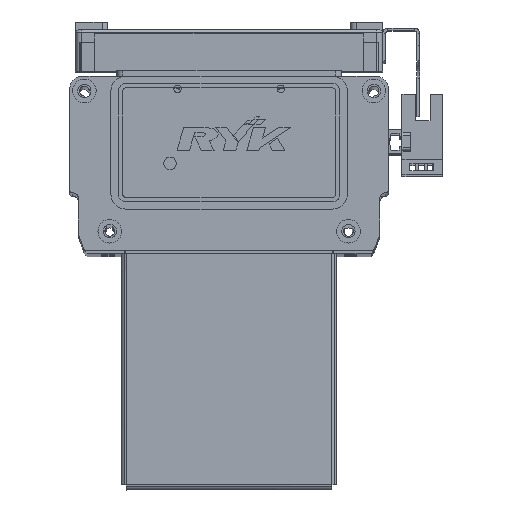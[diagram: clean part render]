
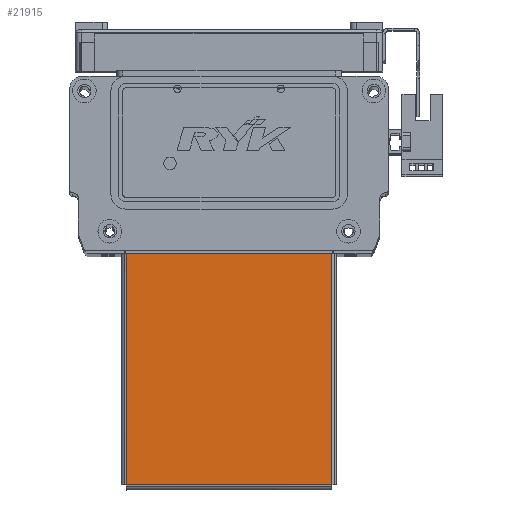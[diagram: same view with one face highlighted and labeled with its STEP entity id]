
A CAD part, top view. The second image highlights one B-rep face of the part: STEP entity #21915.
In plain terms, the highlighted planar face has unit normal (0, 0, 1) as drawn and (0, 1, 0) by its records, which use the part's own axes.
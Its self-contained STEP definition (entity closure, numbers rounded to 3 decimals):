
#108 = DIRECTION ( 'NONE',  ( -1., 0., 0. ) ) ;
#111 = CARTESIAN_POINT ( 'NONE',  ( -35.5, 0., -39.5 ) ) ;
#4628 = VERTEX_POINT ( 'NONE', #25893 ) ;
#4633 = VERTEX_POINT ( 'NONE', #25861 ) ;
#4634 = VERTEX_POINT ( 'NONE', #25901 ) ;
#4657 = VERTEX_POINT ( 'NONE', #25906 ) ;
#11310 = LINE ( 'NONE', #15085, #11338 ) ;
#11338 = VECTOR ( 'NONE', #15057, 1000. ) ;
#11365 = VECTOR ( 'NONE', #14320, 1000. ) ;
#11366 = LINE ( 'NONE', #14346, #11365 ) ;
#11377 = LINE ( 'NONE', #15210, #11390 ) ;
#11390 = VECTOR ( 'NONE', #15211, 1000. ) ;
#11428 = LINE ( 'NONE', #111, #11432 ) ;
#11432 = VECTOR ( 'NONE', #108, 1000. ) ;
#14320 = DIRECTION ( 'NONE',  ( 0., 0., -1. ) ) ;
#14346 = CARTESIAN_POINT ( 'NONE',  ( 34.763, 0., 38.793 ) ) ;
#15057 = DIRECTION ( 'NONE',  ( 1., 0., 0. ) ) ;
#15085 = CARTESIAN_POINT ( 'NONE',  ( -34.793, 0., 38.763 ) ) ;
#15210 = CARTESIAN_POINT ( 'NONE',  ( -34.763, 0., -39.5 ) ) ;
#15211 = DIRECTION ( 'NONE',  ( 0., 0., 1. ) ) ;
#21915 = ADVANCED_FACE ( 'NONE', ( #46644 ), #33425, .T. ) ;
#25861 = CARTESIAN_POINT ( 'NONE',  ( -34.763, 0., -39.5 ) ) ;
#25893 = CARTESIAN_POINT ( 'NONE',  ( 34.763, 0., 38.763 ) ) ;
#25901 = CARTESIAN_POINT ( 'NONE',  ( 34.763, 0., -39.5 ) ) ;
#25906 = CARTESIAN_POINT ( 'NONE',  ( -34.763, 0., 38.763 ) ) ;
#33425 = PLANE ( 'NONE',  #40241 ) ;
#33429 = DIRECTION ( 'NONE',  ( 0., 1., 0. ) ) ;
#33430 = CARTESIAN_POINT ( 'NONE',  ( 0., 0., 0. ) ) ;
#33432 = DIRECTION ( 'NONE',  ( 0., 0., 1. ) ) ;
#38941 = EDGE_CURVE ( 'NONE', #4657, #4628, #11310, .T. ) ;
#39029 = EDGE_CURVE ( 'NONE', #4633, #4657, #11377, .T. ) ;
#39063 = EDGE_CURVE ( 'NONE', #4628, #4634, #11366, .T. ) ;
#39121 = EDGE_CURVE ( 'NONE', #4634, #4633, #11428, .T. ) ;
#40241 = AXIS2_PLACEMENT_3D ( 'NONE', #33430, #33429, #33432 ) ;
#46644 = FACE_OUTER_BOUND ( 'NONE', #57662, .T. ) ;
#48320 = ORIENTED_EDGE ( 'NONE', *, *, #39063, .T. ) ;
#48328 = ORIENTED_EDGE ( 'NONE', *, *, #39029, .T. ) ;
#48332 = ORIENTED_EDGE ( 'NONE', *, *, #39121, .T. ) ;
#48437 = ORIENTED_EDGE ( 'NONE', *, *, #38941, .T. ) ;
#57662 = EDGE_LOOP ( 'NONE', ( #48328, #48437, #48320, #48332 ) ) ;
